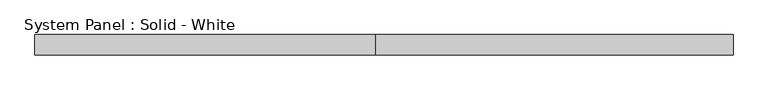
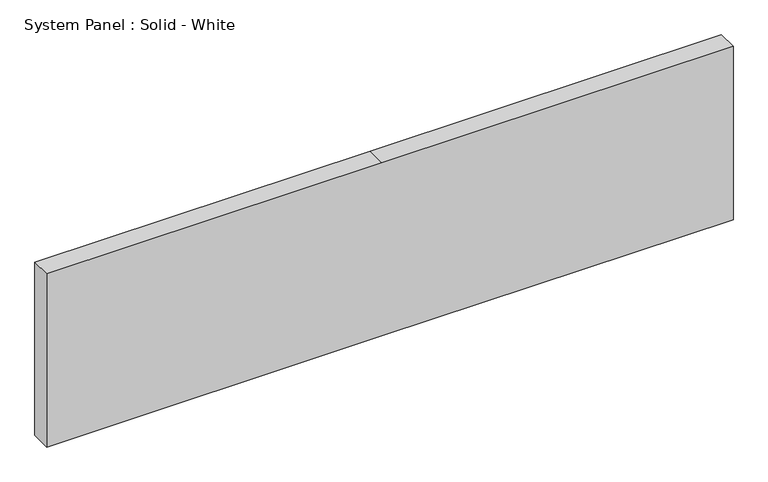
"""IFC4 building model written with IfcOpenShell, lengths in millimetres: plate geometry, System Panel : Solid - White."""

from ifc_helpers import new_model, si_unit, frame, origin, place, context, project, spatial, polyline, outline, extrude, source, transform, mapped, element, save


def system_panel_solid_white_60826c90(model_context):
    return source(origin(), model_context, "Body", "SweptSolid", [
        extrude(outline(polyline([(0.0, -1083.31), (0.0, -25.4), (0.0, 1083.31), (577.85, 1083.31), (577.85, -25.4), (577.85, -1083.31), (0.0, -1083.31)])), frame((0.0, -19.05, 0.0), z_axis=(0.0, 1.0, 0.0), x_axis=(0.0, 0.0, 1.0)), (0.0, 0.0, 1.0), 63.5),
    ])


if __name__ == "__main__":
    model = new_model("IFC4")
    model_context = context("Model", 3, world=origin())
    ifc_project = project(units=[si_unit("LENGTHUNIT", "METRE", prefix="MILLI")], contexts=[model_context])
    site = spatial("IfcSite", under=ifc_project)
    building = spatial("IfcBuilding", under=site)
    placement = place(None, origin())
    system_panel_solid_white_shape = system_panel_solid_white_60826c90(model_context)
    element("IfcPlate", 1, ObjectType="System Panel : Solid - White", at=placement, inside=building, context=model_context, shape_type="MappedRepresentation", body=[
        mapped(system_panel_solid_white_shape, transform((0.0, 0.0, 0.0), x_axis=(1.0, 0.0, 0.0), y_axis=(0.0, 1.0, 0.0), z_axis=(0.0, 0.0, 1.0))),
    ])
    save(model, "model.ifc")
